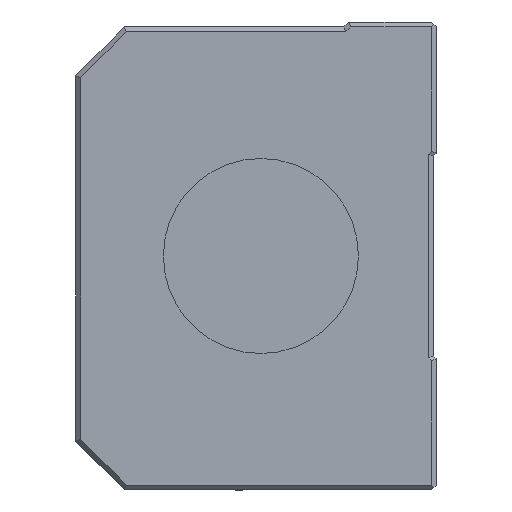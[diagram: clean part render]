
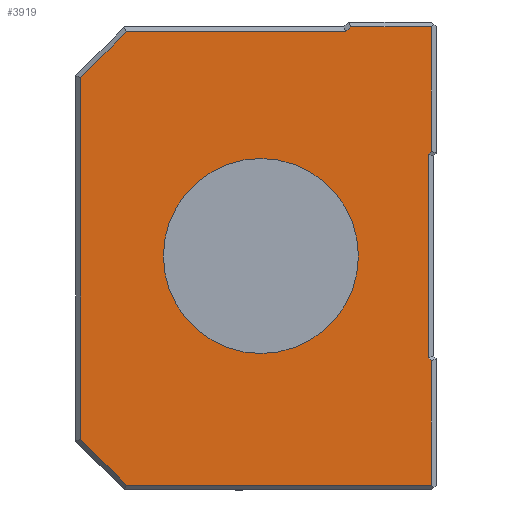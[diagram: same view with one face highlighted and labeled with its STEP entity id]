
A CAD part, left-side view. The second image highlights one B-rep face of the part: STEP entity #3919.
In plain terms, the highlighted planar face has unit normal (-1, 0, 0).
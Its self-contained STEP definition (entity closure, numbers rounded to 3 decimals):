
#196 = DIRECTION ( 'NONE',  ( 0., 0.707, -0.707 ) ) ;
#297 = AXIS2_PLACEMENT_3D ( 'NONE', #9780, #5654, #542 ) ;
#398 = EDGE_CURVE ( 'NONE', #3044, #5100, #10515, .T. ) ;
#478 = VECTOR ( 'NONE', #6516, 1000. ) ;
#513 = ORIENTED_EDGE ( 'NONE', *, *, #9774, .T. ) ;
#542 = DIRECTION ( 'NONE',  ( 0., 0., 1. ) ) ;
#597 = LINE ( 'NONE', #4756, #8946 ) ;
#792 = EDGE_LOOP ( 'NONE', ( #7494, #10726, #5604, #9883, #9506, #2077, #12036, #5359, #1534, #513, #12745, #10157 ) ) ;
#807 = CARTESIAN_POINT ( 'NONE',  ( 0., 18.646, 18.146 ) ) ;
#1272 = CARTESIAN_POINT ( 'NONE',  ( 0., -17.346, -10.604 ) ) ;
#1389 = EDGE_CURVE ( 'NONE', #12919, #9680, #9993, .T. ) ;
#1505 = PLANE ( 'NONE',  #8986 ) ;
#1522 = VECTOR ( 'NONE', #8404, 1000. ) ;
#1534 = ORIENTED_EDGE ( 'NONE', *, *, #1389, .T. ) ;
#1574 = DIRECTION ( 'NONE',  ( 0., 0., 1. ) ) ;
#1707 = LINE ( 'NONE', #6872, #5313 ) ;
#1769 = CIRCLE ( 'NONE', #4153, 10. ) ;
#1772 = DIRECTION ( 'NONE',  ( 0., 0., -1. ) ) ;
#2077 = ORIENTED_EDGE ( 'NONE', *, *, #6157, .T. ) ;
#2592 = FACE_OUTER_BOUND ( 'NONE', #792, .T. ) ;
#2710 = CARTESIAN_POINT ( 'NONE',  ( 0., 13.793, -23.5 ) ) ;
#2960 = VERTEX_POINT ( 'NONE', #8390 ) ;
#3044 = VERTEX_POINT ( 'NONE', #4027 ) ;
#3322 = LINE ( 'NONE', #10565, #6961 ) ;
#3735 = EDGE_CURVE ( 'NONE', #2960, #6029, #10926, .T. ) ;
#3747 = EDGE_CURVE ( 'NONE', #3920, #3044, #1707, .T. ) ;
#3792 = VECTOR ( 'NONE', #6136, 1000. ) ;
#3889 = CARTESIAN_POINT ( 'NONE',  ( 0., -17.5, 0. ) ) ;
#3890 = VECTOR ( 'NONE', #7610, 1000. ) ;
#3919 = ADVANCED_FACE ( 'NONE', ( #2592, #12962 ), #1505, .T. ) ;
#3920 = VERTEX_POINT ( 'NONE', #7816 ) ;
#3984 = VERTEX_POINT ( 'NONE', #4974 ) ;
#4027 = CARTESIAN_POINT ( 'NONE',  ( 0., -17.2, 10.457 ) ) ;
#4153 = AXIS2_PLACEMENT_3D ( 'NONE', #10057, #8157, #12156 ) ;
#4340 = CARTESIAN_POINT ( 'NONE',  ( 0., -9.207, 23.5 ) ) ;
#4446 = VERTEX_POINT ( 'NONE', #8119 ) ;
#4497 = ORIENTED_EDGE ( 'NONE', *, *, #7546, .T. ) ;
#4708 = CARTESIAN_POINT ( 'NONE',  ( 0., 0., 10. ) ) ;
#4756 = CARTESIAN_POINT ( 'NONE',  ( 0., 0., 23.5 ) ) ;
#4780 = CARTESIAN_POINT ( 'NONE',  ( 0., 18.5, -18.793 ) ) ;
#4958 = LINE ( 'NONE', #807, #9161 ) ;
#4974 = CARTESIAN_POINT ( 'NONE',  ( 0., -17.5, -23.5 ) ) ;
#5100 = VERTEX_POINT ( 'NONE', #12486 ) ;
#5313 = VECTOR ( 'NONE', #1574, 1000. ) ;
#5359 = ORIENTED_EDGE ( 'NONE', *, *, #6377, .T. ) ;
#5432 = CARTESIAN_POINT ( 'NONE',  ( 0., 13.646, -23.646 ) ) ;
#5604 = ORIENTED_EDGE ( 'NONE', *, *, #6566, .T. ) ;
#5654 = DIRECTION ( 'NONE',  ( 1., 0., 0. ) ) ;
#5657 = VERTEX_POINT ( 'NONE', #11418 ) ;
#5769 = CARTESIAN_POINT ( 'NONE',  ( 0., 13.793, 23. ) ) ;
#5779 = CARTESIAN_POINT ( 'NONE',  ( 0., -8.707, 23. ) ) ;
#6029 = VERTEX_POINT ( 'NONE', #4708 ) ;
#6057 = ORIENTED_EDGE ( 'NONE', *, *, #3735, .T. ) ;
#6136 = DIRECTION ( 'NONE',  ( 0., 1., 0. ) ) ;
#6157 = EDGE_CURVE ( 'NONE', #5100, #4446, #10382, .T. ) ;
#6377 = EDGE_CURVE ( 'NONE', #8545, #12919, #3322, .T. ) ;
#6506 = VECTOR ( 'NONE', #12160, 1000. ) ;
#6516 = DIRECTION ( 'NONE',  ( 0., -1., 0. ) ) ;
#6566 = EDGE_CURVE ( 'NONE', #7559, #3920, #9419, .T. ) ;
#6603 = CARTESIAN_POINT ( 'NONE',  ( 0., -17.896, 11.154 ) ) ;
#6669 = DIRECTION ( 'NONE',  ( 0., 0., 1. ) ) ;
#6736 = CARTESIAN_POINT ( 'NONE',  ( 0., 0., 0. ) ) ;
#6773 = EDGE_LOOP ( 'NONE', ( #6057, #4497 ) ) ;
#6872 = CARTESIAN_POINT ( 'NONE',  ( 0., -17.2, 10.25 ) ) ;
#6961 = VECTOR ( 'NONE', #196, 1000. ) ;
#7203 = CARTESIAN_POINT ( 'NONE',  ( 0., -17.5, 0. ) ) ;
#7494 = ORIENTED_EDGE ( 'NONE', *, *, #9433, .T. ) ;
#7546 = EDGE_CURVE ( 'NONE', #6029, #2960, #1769, .T. ) ;
#7559 = VERTEX_POINT ( 'NONE', #13376 ) ;
#7598 = VECTOR ( 'NONE', #10622, 1000. ) ;
#7610 = DIRECTION ( 'NONE',  ( 0., -0.707, 0.707 ) ) ;
#7816 = CARTESIAN_POINT ( 'NONE',  ( 0., -17.2, -10.457 ) ) ;
#8119 = CARTESIAN_POINT ( 'NONE',  ( 0., -17.5, 23.5 ) ) ;
#8157 = DIRECTION ( 'NONE',  ( 1., 0., 0. ) ) ;
#8257 = VECTOR ( 'NONE', #10256, 1000. ) ;
#8305 = EDGE_CURVE ( 'NONE', #3984, #7559, #13180, .T. ) ;
#8390 = CARTESIAN_POINT ( 'NONE',  ( 0., 0., -10. ) ) ;
#8404 = DIRECTION ( 'NONE',  ( 0., -0.707, -0.707 ) ) ;
#8447 = EDGE_CURVE ( 'NONE', #5657, #12077, #12069, .T. ) ;
#8473 = LINE ( 'NONE', #8539, #478 ) ;
#8519 = EDGE_CURVE ( 'NONE', #12077, #9512, #10435, .T. ) ;
#8539 = CARTESIAN_POINT ( 'NONE',  ( 0., 0., -23.5 ) ) ;
#8545 = VERTEX_POINT ( 'NONE', #4340 ) ;
#8884 = DIRECTION ( 'NONE',  ( 0., 1., 0. ) ) ;
#8946 = VECTOR ( 'NONE', #8884, 1000. ) ;
#8970 = DIRECTION ( 'NONE',  ( -1., 0., 0. ) ) ;
#8986 = AXIS2_PLACEMENT_3D ( 'NONE', #6736, #8970, #6669 ) ;
#9161 = VECTOR ( 'NONE', #12202, 1000. ) ;
#9419 = LINE ( 'NONE', #1272, #7598 ) ;
#9433 = EDGE_CURVE ( 'NONE', #9512, #3984, #8473, .T. ) ;
#9506 = ORIENTED_EDGE ( 'NONE', *, *, #398, .T. ) ;
#9512 = VERTEX_POINT ( 'NONE', #2710 ) ;
#9680 = VERTEX_POINT ( 'NONE', #5769 ) ;
#9703 = EDGE_CURVE ( 'NONE', #4446, #8545, #597, .T. ) ;
#9774 = EDGE_CURVE ( 'NONE', #9680, #5657, #4958, .T. ) ;
#9780 = CARTESIAN_POINT ( 'NONE',  ( 0., 0., 0. ) ) ;
#9883 = ORIENTED_EDGE ( 'NONE', *, *, #3747, .T. ) ;
#9993 = LINE ( 'NONE', #10128, #3792 ) ;
#10057 = CARTESIAN_POINT ( 'NONE',  ( 0., 0., 0. ) ) ;
#10128 = CARTESIAN_POINT ( 'NONE',  ( 0., 14., 23. ) ) ;
#10157 = ORIENTED_EDGE ( 'NONE', *, *, #8519, .T. ) ;
#10256 = DIRECTION ( 'NONE',  ( 0., 0., 1. ) ) ;
#10382 = LINE ( 'NONE', #7203, #8257 ) ;
#10435 = LINE ( 'NONE', #5432, #1522 ) ;
#10515 = LINE ( 'NONE', #6603, #3890 ) ;
#10565 = CARTESIAN_POINT ( 'NONE',  ( 0., -8.854, 23.146 ) ) ;
#10622 = DIRECTION ( 'NONE',  ( 0., 0.707, 0.707 ) ) ;
#10726 = ORIENTED_EDGE ( 'NONE', *, *, #8305, .T. ) ;
#10926 = CIRCLE ( 'NONE', #297, 10. ) ;
#11055 = CARTESIAN_POINT ( 'NONE',  ( 0., 18.5, 0. ) ) ;
#11418 = CARTESIAN_POINT ( 'NONE',  ( 0., 18.5, 18.293 ) ) ;
#11680 = VECTOR ( 'NONE', #1772, 1000. ) ;
#12036 = ORIENTED_EDGE ( 'NONE', *, *, #9703, .T. ) ;
#12069 = LINE ( 'NONE', #11055, #11680 ) ;
#12077 = VERTEX_POINT ( 'NONE', #4780 ) ;
#12156 = DIRECTION ( 'NONE',  ( 0., 0., 1. ) ) ;
#12160 = DIRECTION ( 'NONE',  ( 0., 0., 1. ) ) ;
#12202 = DIRECTION ( 'NONE',  ( 0., 0.707, -0.707 ) ) ;
#12486 = CARTESIAN_POINT ( 'NONE',  ( 0., -17.5, 10.757 ) ) ;
#12745 = ORIENTED_EDGE ( 'NONE', *, *, #8447, .T. ) ;
#12919 = VERTEX_POINT ( 'NONE', #5779 ) ;
#12962 = FACE_BOUND ( 'NONE', #6773, .T. ) ;
#13180 = LINE ( 'NONE', #3889, #6506 ) ;
#13376 = CARTESIAN_POINT ( 'NONE',  ( 0., -17.5, -10.757 ) ) ;
